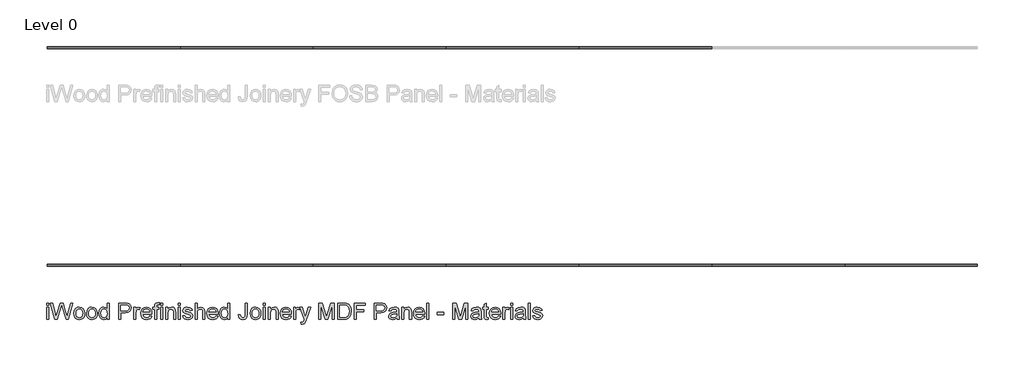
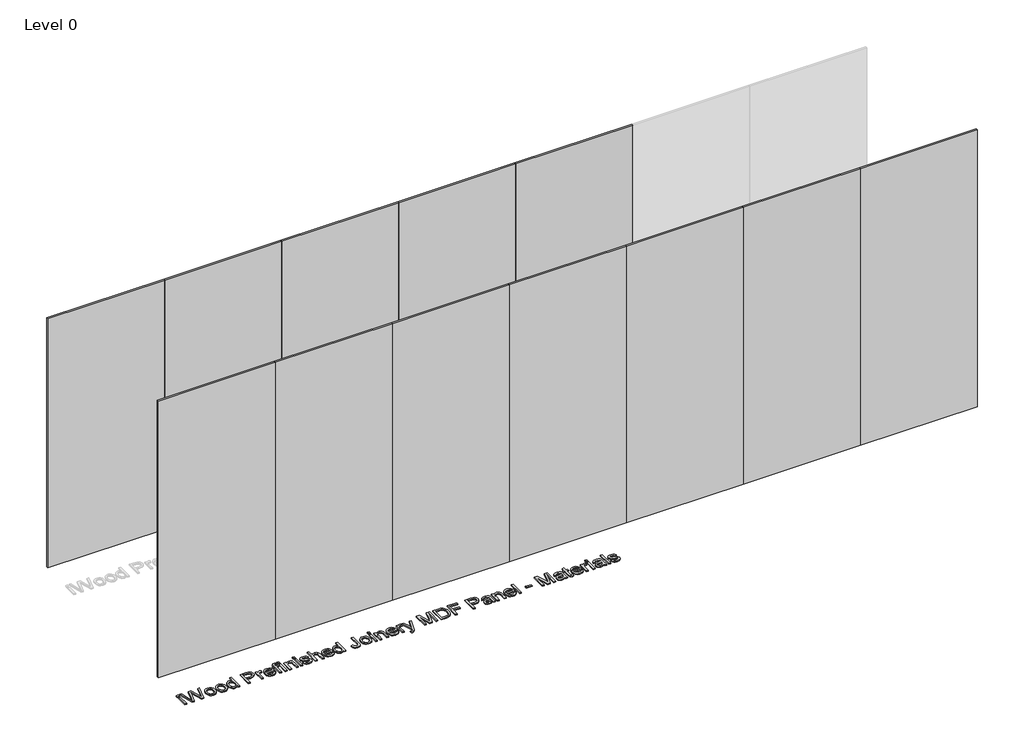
# One storey, part 1 of 2: 13 proxies.
"""IFC4 building model written with IfcOpenShell, lengths in millimetres."""

from ifc_helpers import new_model, si_unit, origin, origin_with_axes, place, context, project, spatial, polyline, outline, extrude, transform, mapped, element, save
from components import generic_models_e840f3b6, generic_models_9aff09e2

model = new_model("IFC4")

# Units and contexts
model_context = context("Model", 3, world=origin())
ifc_project = project(units=[si_unit("LENGTHUNIT", "METRE", prefix="MILLI")], contexts=[model_context])

# Site, building, storey
site = spatial("IfcSite", under=ifc_project)
building = spatial("IfcBuilding", under=site)
storey = spatial("IfcBuildingStorey", under=building, Name="Level 0", Elevation=0.0)

# Proxies
placement = place(None, origin())
generic_models_shape = generic_models_e840f3b6(model_context)
element("IfcBuildingElementProxy", 1, Name="Cladding Board_iWood_FOSB Panel_American Walnut : Cladding Board_iWood_FOSB Panel_American Walnut", ObjectType="Cladding Board_iWood_FOSB Panel_American Walnut : Cladding Board_iWood_FOSB Panel_American Walnut", at=placement, inside=storey, context=model_context, shape_type="MappedRepresentation", body=[
    mapped(generic_models_shape, transform((-5737.9498425, 1494.2915428, 0.0), x_axis=(1.0, 0.0, 0.0), y_axis=(0.0, 1.0, 0.0), z_axis=(0.0, 0.0, 1.0))),
])
generic_models_2_shape = generic_models_9aff09e2(model_context)
element("IfcBuildingElementProxy", 2, Name="Cladding Board_iWood_MDF Panel_American Walnut : Cladding Board_iWood_MDF Panel_American Walnut", ObjectType="Cladding Board_iWood_MDF Panel_American Walnut : Cladding Board_iWood_MDF Panel_American Walnut", at=placement, inside=storey, context=model_context, shape_type="MappedRepresentation", body=[
    mapped(generic_models_2_shape, transform((-5737.9498425, -505.7084572, 0.0), x_axis=(1.0, 0.0, 0.0), y_axis=(0.0, 1.0, 0.0), z_axis=(0.0, 0.0, 1.0))),
])
element("IfcBuildingElementProxy", 3, Name="Cladding Board_iWood_FOSB Panel_American White Oak (Dark) : Cladding Board_iWood_FOSB Panel_American White Oak (Dark)", ObjectType="Cladding Board_iWood_FOSB Panel_American White Oak (Dark) : Cladding Board_iWood_FOSB Panel_American White Oak (Dark)", at=placement, inside=storey, context=model_context, shape_type="MappedRepresentation", body=[
    mapped(generic_models_shape, transform((-4517.9498425, 1494.2915428, 0.0), x_axis=(1.0, 0.0, 0.0), y_axis=(0.0, 1.0, 0.0), z_axis=(0.0, 0.0, 1.0))),
])
element("IfcBuildingElementProxy", 4, Name="Cladding Board_iWood_MDF Panel_American White Oak (Dark) : Cladding Board_iWood_MDF Panel_American White Oak (Dark)", ObjectType="Cladding Board_iWood_MDF Panel_American White Oak (Dark) : Cladding Board_iWood_MDF Panel_American White Oak (Dark)", at=placement, inside=storey, context=model_context, shape_type="MappedRepresentation", body=[
    mapped(generic_models_2_shape, transform((-4517.9498425, -505.7084572, 0.0), x_axis=(1.0, 0.0, 0.0), y_axis=(0.0, 1.0, 0.0), z_axis=(0.0, 0.0, 1.0))),
])
element("IfcBuildingElementProxy", 5, Name="Cladding Board_iWood_FOSB Panel_American White Oak (Natural) : Cladding Board_iWood_FOSB Panel_American White Oak (Natural)", ObjectType="Cladding Board_iWood_FOSB Panel_American White Oak (Natural) : Cladding Board_iWood_FOSB Panel_American White Oak (Natural)", at=placement, inside=storey, context=model_context, shape_type="MappedRepresentation", body=[
    mapped(generic_models_shape, transform((-3297.9498425, 1494.2915428, 0.0), x_axis=(1.0, 0.0, 0.0), y_axis=(0.0, 1.0, 0.0), z_axis=(0.0, 0.0, 1.0))),
])
element("IfcBuildingElementProxy", 6, Name="Cladding Board_iWood_MDF Panel_American White Oak (Natural) : Cladding Board_iWood_MDF Panel_American White Oak (Natural)", ObjectType="Cladding Board_iWood_MDF Panel_American White Oak (Natural) : Cladding Board_iWood_MDF Panel_American White Oak (Natural)", at=placement, inside=storey, context=model_context, shape_type="MappedRepresentation", body=[
    mapped(generic_models_2_shape, transform((-3297.9498425, -505.7084572, 0.0), x_axis=(1.0, 0.0, 0.0), y_axis=(0.0, 1.0, 0.0), z_axis=(0.0, 0.0, 1.0))),
])
element("IfcBuildingElementProxy", 7, Name="Cladding Board_iWood_FOSB Panel_Blackbutt : Cladding Board_iWood_FOSB Panel_Blackbutt", ObjectType="Cladding Board_iWood_FOSB Panel_Blackbutt : Cladding Board_iWood_FOSB Panel_Blackbutt", at=placement, inside=storey, context=model_context, shape_type="MappedRepresentation", body=[
    mapped(generic_models_shape, transform((-2077.9498425, 1494.2915428, 0.0), x_axis=(1.0, 0.0, 0.0), y_axis=(0.0, 1.0, 0.0), z_axis=(0.0, 0.0, 1.0))),
])
element("IfcBuildingElementProxy", 8, Name="Cladding Board_iWood_MDF Panel_Blackbutt : Cladding Board_iWood_MDF Panel_Blackbutt", ObjectType="Cladding Board_iWood_MDF Panel_Blackbutt : Cladding Board_iWood_MDF Panel_Blackbutt", at=placement, inside=storey, context=model_context, shape_type="MappedRepresentation", body=[
    mapped(generic_models_2_shape, transform((-2077.9498425, -505.7084572, 0.0), x_axis=(1.0, 0.0, 0.0), y_axis=(0.0, 1.0, 0.0), z_axis=(0.0, 0.0, 1.0))),
])
element("IfcBuildingElementProxy", 9, Name="Cladding Board_iWood_FOSB Panel_Blackwood : Cladding Board_iWood_FOSB Panel_Blackwood", ObjectType="Cladding Board_iWood_FOSB Panel_Blackwood : Cladding Board_iWood_FOSB Panel_Blackwood", at=placement, inside=storey, context=model_context, shape_type="MappedRepresentation", body=[
    mapped(generic_models_shape, transform((-857.9498425, 1494.2915428, 0.0), x_axis=(1.0, 0.0, 0.0), y_axis=(0.0, 1.0, 0.0), z_axis=(0.0, 0.0, 1.0))),
])
element("IfcBuildingElementProxy", 10, Name="Cladding Board_iWood_MDF Panel_Blackwood : Cladding Board_iWood_MDF Panel_Blackwood", ObjectType="Cladding Board_iWood_MDF Panel_Blackwood : Cladding Board_iWood_MDF Panel_Blackwood", at=placement, inside=storey, context=model_context, shape_type="MappedRepresentation", body=[
    mapped(generic_models_2_shape, transform((-857.9498425, -505.7084572, 0.0), x_axis=(1.0, 0.0, 0.0), y_axis=(0.0, 1.0, 0.0), z_axis=(0.0, 0.0, 1.0))),
])
element("IfcBuildingElementProxy", 11, Name="Cladding Board_iWood_MDF Panel_Spotted Gum : Cladding Board_iWood_MDF Panel_Spotted Gum", ObjectType="Cladding Board_iWood_MDF Panel_Spotted Gum : Cladding Board_iWood_MDF Panel_Spotted Gum", at=placement, inside=storey, context=model_context, shape_type="MappedRepresentation", body=[
    mapped(generic_models_2_shape, transform((362.0501575, -505.7084572, 0.0), x_axis=(1.0, 0.0, 0.0), y_axis=(0.0, 1.0, 0.0), z_axis=(0.0, 0.0, 1.0))),
])
element("IfcBuildingElementProxy", 12, Name="Cladding Board_iWood_MDF Panel_Tasmanian Oak : Cladding Board_iWood_MDF Panel_Tasmanian Oak", ObjectType="Cladding Board_iWood_MDF Panel_Tasmanian Oak : Cladding Board_iWood_MDF Panel_Tasmanian Oak", at=placement, inside=storey, context=model_context, shape_type="MappedRepresentation", body=[
    mapped(generic_models_2_shape, transform((1582.0501575, -505.7084572, 0.0), x_axis=(1.0, 0.0, 0.0), y_axis=(0.0, 1.0, 0.0), z_axis=(0.0, 0.0, 1.0))),
])
element("IfcBuildingElementProxy", 13, Name="150mm Arial", ObjectType="150mm Arial", at=placement, inside=storey, context=model_context, shape_type="SweptSolid", body=[
    extrude(outline(polyline([(-5803.3402849, 1099.71536), (-5803.3402849, 1118.5509181), (-5784.5047267, 1118.5509181), (-5784.5047267, 1099.71536), (-5803.3402849, 1099.71536)])), origin_with_axes(), (0.0, 0.0, 1.0), 10.0),
    extrude(outline(polyline([(-5803.3402849, 967.8664529), (-5803.3402849, 1078.5253571), (-5784.5047267, 1078.5253571), (-5784.5047267, 967.8664529), (-5803.3402849, 967.8664529)])), origin_with_axes(), (0.0, 0.0, 1.0), 10.0),
    extrude(outline(polyline([(-5726.9311945, 967.8664529), (-5768.0236133, 1118.5509181), (-5748.599444, 1118.5509181), (-5724.7606907, 1019.517085), (-5717.4030508, 988.9460912), (-5709.5303761, 1015.9854179), (-5679.6583581, 1118.5509181), (-5651.6625383, 1118.5509181), (-5629.9575005, 1044.2019669), (-5613.8074809, 988.9460912), (-5606.6705702, 1018.6341683), (-5582.6110878, 1118.5509181), (-5563.1869184, 1118.5509181), (-5604.3161255, 967.8664529), (-5624.4392706, 967.8664529), (-5660.5652825, 1084.1171634), (-5665.6052659, 1100.3407594), (-5671.2706486, 1080.8062254), (-5704.1960872, 967.8664529), (-5726.9311945, 967.8664529)])), origin_with_axes(), (0.0, 0.0, 1.0), 10.0),
    extrude(outline(polyline([(-5551.4146946, 1023.195905), (-5547.3404015, 1049.8765467), (-5535.1175222, 1068.6293314), (-5520.0159663, 1077.8171842), (-5501.9345662, 1080.8798018), (-5482.1471134, 1077.1503981), (-5466.3419832, 1065.9621869), (-5455.9815065, 1048.1980851), (-5452.5280143, 1024.7410094), (-5454.0547245, 1005.7123132), (-5458.6348554, 991.2269596), (-5466.1350496, 980.3790393), (-5476.4219498, 972.2626428), (-5488.6402306, 967.1996668), (-5501.9345662, 965.5120082), (-5521.9611423, 969.2276163), (-5537.7478784, 980.3744408), (-5547.9979905, 998.5110231), (-5551.4146946, 1023.195905)]), holes=[polyline([(-5532.5791364, 1023.2326932), (-5530.3994356, 1006.1859612), (-5523.8603331, 994.0412569), (-5514.0194898, 986.7709889), (-5501.9345662, 984.3475663), (-5489.904825, 986.7847845), (-5480.0823757, 994.0964392), (-5473.5432732, 1006.4020919), (-5471.3635724, 1023.8213044), (-5473.5570688, 1040.3713956), (-5480.137558, 1052.3505531), (-5489.9738028, 1059.620821), (-5501.9345662, 1062.0442437), (-5514.0194898, 1059.6300181), (-5523.8603331, 1052.3873413), (-5530.3994356, 1040.2702281), (-5532.5791364, 1023.2326932)])]), origin_with_axes(), (0.0, 0.0, 1.0), 10.0),
    extrude(outline(polyline([(-5436.0469009, 1023.195905), (-5431.9726078, 1049.8765467), (-5419.7497285, 1068.6293314), (-5404.6481726, 1077.8171842), (-5386.5667725, 1080.8798018), (-5366.7793197, 1077.1503981), (-5350.9741895, 1065.9621869), (-5340.6137128, 1048.1980851), (-5337.1602206, 1024.7410094), (-5338.6869309, 1005.7123132), (-5343.2670617, 991.2269596), (-5350.7672559, 980.3790393), (-5361.0541562, 972.2626428), (-5373.2724369, 967.1996668), (-5386.5667725, 965.5120082), (-5406.5933486, 969.2276163), (-5422.3800848, 980.3744408), (-5432.6301968, 998.5110231), (-5436.0469009, 1023.195905)]), holes=[polyline([(-5417.2113427, 1023.2326932), (-5415.0316419, 1006.1859612), (-5408.4925394, 994.0412569), (-5398.6516961, 986.7709889), (-5386.5667725, 984.3475663), (-5374.5370313, 986.7847845), (-5364.714582, 994.0964392), (-5358.1754796, 1006.4020919), (-5355.9957787, 1023.8213044), (-5358.1892751, 1040.3713956), (-5364.7697643, 1052.3505531), (-5374.6060092, 1059.620821), (-5386.5667725, 1062.0442437), (-5398.6516961, 1059.6300181), (-5408.4925394, 1052.3873413), (-5415.0316419, 1040.2702281), (-5417.2113427, 1023.2326932)])]), origin_with_axes(), (0.0, 0.0, 1.0), 10.0),
    extrude(outline(polyline([(-5247.6913193, 967.8664529), (-5247.6913193, 985.6351533), (-5260.1533219, 970.5427944), (-5277.3793964, 965.5120082), (-5289.5562904, 967.333024), (-5300.7031149, 972.7960717), (-5310.139288, 981.5194735), (-5317.1842282, 993.1215519), (-5321.571221, 1007.1332574), (-5323.033552, 1023.0855404), (-5317.6440807, 1053.067923), (-5310.9118402, 1064.9597085), (-5301.4940611, 1073.7061029), (-5290.1035149, 1079.0863771), (-5277.4529728, 1080.8798018), (-5260.0889426, 1075.747848), (-5247.6913193, 1062.4121257), (-5247.6913193, 1118.5509181), (-5228.8557612, 1118.5509181), (-5228.8557612, 967.8664529), (-5247.6913193, 967.8664529)]), holes=[polyline([(-5304.1979938, 1023.1591168), (-5302.0734753, 1006.1215819), (-5295.6999197, 994.0044687), (-5286.4384905, 986.7617919), (-5275.650351, 984.3475663), (-5264.86681, 986.6514273), (-5255.8399055, 993.5630103), (-5249.7284659, 1005.211074), (-5247.6913193, 1021.724377), (-5249.7652541, 1039.7781859), (-5255.9870583, 1052.2953708), (-5265.243889, 1059.6070255), (-5276.4229032, 1062.0442437), (-5287.3214073, 1059.7035945), (-5296.2517427, 1052.6816469), (-5302.211431, 1040.619716), (-5304.1979938, 1023.1591168)])]), origin_with_axes(), (0.0, 0.0, 1.0), 10.0),
    extrude(outline(polyline([(-5139.38686, 967.8664529), (-5139.38686, 1118.5509181), (-5083.5423731, 1118.5509181), (-5061.027995, 1117.1161784), (-5042.7258657, 1110.0712382), (-5030.8616714, 1095.5031111), (-5026.3735111, 1074.9569017), (-5029.403939, 1057.1973984), (-5038.4952228, 1042.3993451), (-5055.4959695, 1032.411349), (-5082.2547861, 1029.0820169), (-5120.5513018, 1029.0820169), (-5120.5513018, 967.8664529), (-5139.38686, 967.8664529)]), holes=[polyline([(-5120.5513018, 1047.9175751), (-5081.1511401, 1047.9175751), (-5064.4492976, 1049.6466204), (-5053.4128377, 1054.8337566), (-5047.2600113, 1063.1570867), (-5045.2090692, 1074.2947141), (-5050.0467174, 1089.8929107), (-5062.7570404, 1098.427773), (-5081.5925985, 1099.71536), (-5120.5513018, 1099.71536), (-5120.5513018, 1047.9175751)])]), origin_with_axes(), (0.0, 0.0, 1.0), 10.0),
    extrude(outline(polyline([(-5002.8290634, 967.8664529), (-5002.8290634, 1078.5253571), (-4986.34795, 1078.5253571), (-4986.34795, 1062.1546083), (-4974.6493025, 1077.2377701), (-4962.8770787, 1080.8798018), (-4943.9679441, 1075.0672663), (-4950.2587262, 1058.1814827), (-4963.5024781, 1062.0442437), (-4974.1526618, 1058.3286355), (-4980.9400846, 1048.0279397), (-4983.9935052, 1026.0285964), (-4983.9935052, 967.8664529), (-5002.8290634, 967.8664529)])), origin_with_axes(), (0.0, 0.0, 1.0), 10.0),
    extrude(outline(polyline([(-4854.7197721, 1000.8286797), (-4836.2520959, 998.4742349), (-4842.9061615, 984.5590985), (-4853.5241556, 974.157235), (-4867.8669549, 967.6733149), (-4885.6954361, 965.5120082), (-4907.795947, 969.2414119), (-4924.8012922, 980.4296231), (-4935.644614, 998.3500747), (-4939.2590546, 1022.2762), (-4935.6078258, 1047.0070671), (-4924.6541394, 1065.5023344), (-4907.8787204, 1077.035435), (-4886.7622939, 1080.8798018), (-4866.3034564, 1077.044632), (-4849.9557003, 1065.5391226), (-4839.2365386, 1047.0806435), (-4835.6634848, 1022.3865646), (-4835.7738493, 1017.3097931), (-4920.4234964, 1017.3097931), (-4917.1631423, 1003.2107156), (-4909.5893717, 992.8456404), (-4898.6586779, 986.4720848), (-4885.3275541, 984.3475663), (-4866.8598779, 988.2839037), (-4854.7197721, 1000.8286797)]), holes=[polyline([(-4920.4234964, 1036.1453512), (-4854.4990429, 1036.1453512), (-4857.0466257, 1046.0965592), (-4862.0406238, 1053.2150758), (-4873.0219014, 1059.8369517), (-4886.8358703, 1062.0442437), (-4899.5323976, 1060.2830086), (-4910.0308301, 1054.9993035), (-4917.3286892, 1046.7633453), (-4920.4234964, 1036.1453512)])]), origin_with_axes(), (0.0, 0.0, 1.0), 10.0),
    extrude(outline(polyline([(-4812.1190371, 967.8664529), (-4812.1190371, 1059.6897989), (-4828.6001504, 1059.6897989), (-4828.6001504, 1078.5253571), (-4812.1190371, 1078.5253571), (-4812.1190371, 1089.6721815), (-4810.1324743, 1105.3807427), (-4800.493966, 1116.6011436), (-4781.5112551, 1120.9053629), (-4764.3311659, 1118.8452237), (-4767.0902808, 1101.186888), (-4777.9427997, 1102.0698048), (-4789.8069941, 1098.9428078), (-4793.2834789, 1087.2809486), (-4793.2834789, 1078.5253571), (-4772.093476, 1078.5253571), (-4772.093476, 1059.6897989), (-4793.2834789, 1059.6897989), (-4793.2834789, 967.8664529), (-4812.1190371, 967.8664529)])), origin_with_axes(), (0.0, 0.0, 1.0), 10.0),
    extrude(outline(polyline([(-4755.6123626, 1099.71536), (-4755.6123626, 1118.5509181), (-4736.7768044, 1118.5509181), (-4736.7768044, 1099.71536), (-4755.6123626, 1099.71536)])), origin_with_axes(), (0.0, 0.0, 1.0), 10.0),
    extrude(outline(polyline([(-4755.6123626, 967.8664529), (-4755.6123626, 1078.5253571), (-4736.7768044, 1078.5253571), (-4736.7768044, 967.8664529), (-4755.6123626, 967.8664529)])), origin_with_axes(), (0.0, 0.0, 1.0), 10.0),
    extrude(outline(polyline([(-4708.5234672, 967.8664529), (-4708.5234672, 1078.5253571), (-4689.6879091, 1078.5253571), (-4689.6879091, 1063.0743133), (-4675.285329, 1076.4284297), (-4655.6220363, 1080.8798018), (-4637.8349418, 1077.2929524), (-4625.694836, 1067.8751733), (-4620.0478474, 1054.0244162), (-4619.054566, 1035.8142574), (-4619.054566, 967.8664529), (-4637.8901241, 967.8664529), (-4637.8901241, 1033.2758717), (-4640.0606279, 1049.940926), (-4647.7309675, 1058.7516998), (-4660.6620196, 1062.0442437), (-4671.693881, 1060.1956367), (-4681.0978645, 1054.6498156), (-4687.5403979, 1043.9352525), (-4689.6879091, 1026.5804194), (-4689.6879091, 967.8664529), (-4708.5234672, 967.8664529)])), origin_with_axes(), (0.0, 0.0, 1.0), 10.0),
    extrude(outline(polyline([(-4593.1556735, 1099.71536), (-4593.1556735, 1118.5509181), (-4574.3201154, 1118.5509181), (-4574.3201154, 1099.71536), (-4593.1556735, 1099.71536)])), origin_with_axes(), (0.0, 0.0, 1.0), 10.0),
    extrude(outline(polyline([(-4593.1556735, 967.8664529), (-4593.1556735, 1078.5253571), (-4574.3201154, 1078.5253571), (-4574.3201154, 967.8664529), (-4593.1556735, 967.8664529)])), origin_with_axes(), (0.0, 0.0, 1.0), 10.0),
    extrude(outline(polyline([(-4553.1301125, 1000.8286797), (-4534.2945543, 1003.1831245), (-4531.3239072, 995.1265088), (-4525.575751, 989.2036086), (-4505.5997587, 984.3475663), (-4486.3963185, 988.7989384), (-4480.1423246, 999.2467871), (-4481.7150201, 1004.0476471), (-4486.4331067, 1007.708073), (-4505.8204879, 1013.0791501), (-4534.1841897, 1022.2945941), (-4546.5634188, 1033.0551425), (-4550.7756677, 1048.2486689), (-4547.3911533, 1062.283367), (-4538.1573153, 1073.0071271), (-4526.1827563, 1078.5805394), (-4509.9775544, 1080.8798018), (-4487.0585061, 1077.1825878), (-4472.4903791, 1067.1761975), (-4466.015656, 1050.2720198), (-4484.8512142, 1047.9175751), (-4491.9329426, 1058.3102414), (-4508.5060264, 1062.0442437), (-4526.5322442, 1058.4757883), (-4531.9401095, 1050.1616552), (-4529.6960294, 1044.6802135), (-4522.6694833, 1040.523147), (-4506.4458873, 1036.5132332), (-4478.7995553, 1027.6472771), (-4465.9604737, 1017.6040987), (-4461.3067665, 1001.2333499), (-4466.7698141, 983.2071321), (-4482.5335576, 970.1289272), (-4505.8572761, 965.5120082), (-4524.8491841, 967.7376942), (-4538.7091382, 974.4147524), (-4547.9613704, 985.4696064), (-4553.1301125, 1000.8286797)])), origin_with_axes(), (0.0, 0.0, 1.0), 10.0),
    extrude(outline(polyline([(-4440.1167635, 967.8664529), (-4440.1167635, 1118.5509181), (-4421.2812054, 1118.5509181), (-4421.2812054, 1063.1478897), (-4406.5935167, 1076.4468238), (-4388.5029196, 1080.8798018), (-4367.3497049, 1076.0421536), (-4354.5106233, 1062.6696431), (-4350.6478623, 1037.9111848), (-4350.6478623, 967.8664529), (-4369.4834205, 967.8664529), (-4369.4834205, 1035.9614102), (-4370.9825396, 1047.7520282), (-4375.479897, 1055.827038), (-4382.7271723, 1060.4899423), (-4392.4760452, 1062.0442437), (-4407.9086949, 1057.8503889), (-4418.2093907, 1046.4828353), (-4421.2812054, 1026.6539958), (-4421.2812054, 967.8664529), (-4440.1167635, 967.8664529)])), origin_with_axes(), (0.0, 0.0, 1.0), 10.0),
    extrude(outline(polyline([(-4247.2730217, 1000.8286797), (-4228.8053455, 998.4742349), (-4235.4594111, 984.5590985), (-4246.0774052, 974.157235), (-4260.4202045, 967.6733149), (-4278.2486857, 965.5120082), (-4300.3491965, 969.2414119), (-4317.3545417, 980.4296231), (-4328.1978636, 998.3500747), (-4331.8123042, 1022.2762), (-4328.1610754, 1047.0070671), (-4317.2073889, 1065.5023344), (-4300.43197, 1077.035435), (-4279.3155434, 1080.8798018), (-4258.856706, 1077.044632), (-4242.5089498, 1065.5391226), (-4231.7897882, 1047.0806435), (-4228.2167343, 1022.3865646), (-4228.3270989, 1017.3097931), (-4312.976746, 1017.3097931), (-4309.7163918, 1003.2107156), (-4302.1426212, 992.8456404), (-4291.2119275, 986.4720848), (-4277.8808037, 984.3475663), (-4259.4131275, 988.2839037), (-4247.2730217, 1000.8286797)]), holes=[polyline([(-4312.976746, 1036.1453512), (-4247.0522925, 1036.1453512), (-4249.5998753, 1046.0965592), (-4254.5938734, 1053.2150758), (-4265.5751509, 1059.8369517), (-4279.3891198, 1062.0442437), (-4292.0856472, 1060.2830086), (-4302.5840796, 1054.9993035), (-4309.8819387, 1046.7633453), (-4312.976746, 1036.1453512)])]), origin_with_axes(), (0.0, 0.0, 1.0), 10.0),
    extrude(outline(polyline([(-4141.1022779, 967.8664529), (-4141.1022779, 985.6351533), (-4153.5642804, 970.5427944), (-4170.7903549, 965.5120082), (-4182.9672489, 967.333024), (-4194.1140734, 972.7960717), (-4203.5502465, 981.5194735), (-4210.5951867, 993.1215519), (-4214.9821795, 1007.1332574), (-4216.4445105, 1023.0855404), (-4211.0550392, 1053.067923), (-4204.3227987, 1064.9597085), (-4194.9050197, 1073.7061029), (-4183.5144734, 1079.0863771), (-4170.8639313, 1080.8798018), (-4153.4999011, 1075.747848), (-4141.1022779, 1062.4121257), (-4141.1022779, 1118.5509181), (-4122.2667197, 1118.5509181), (-4122.2667197, 967.8664529), (-4141.1022779, 967.8664529)]), holes=[polyline([(-4197.6089523, 1023.1591168), (-4195.4844338, 1006.1215819), (-4189.1108782, 994.0044687), (-4179.849449, 986.7617919), (-4169.0613095, 984.3475663), (-4158.2777685, 986.6514273), (-4149.2508641, 993.5630103), (-4143.1394244, 1005.211074), (-4141.1022779, 1021.724377), (-4143.1762126, 1039.7781859), (-4149.3980168, 1052.2953708), (-4158.6548476, 1059.6070255), (-4169.8338617, 1062.0442437), (-4180.7323658, 1059.7035945), (-4189.6627012, 1052.6816469), (-4195.6223895, 1040.619716), (-4197.6089523, 1023.1591168)])]), origin_with_axes(), (0.0, 0.0, 1.0), 10.0),
    extrude(outline(polyline([(-4042.2155976, 1010.1728824), (-4023.3800394, 1012.6009035), (-4021.4210678, 998.9064963), (-4016.9421045, 990.3440428), (-4010.0994994, 985.8466854), (-4001.0496023, 984.3475663), (-3988.1553384, 987.7504748), (-3980.6873339, 997.021101), (-3978.6455888, 1015.6911123), (-3978.6455888, 1118.5509181), (-3959.8100306, 1118.5509181), (-3959.8100306, 1016.0222061), (-3964.3533733, 986.7571934), (-3970.2302881, 977.6291214), (-3978.7743475, 970.9566617), (-4001.9325191, 965.5120082), (-4019.3425345, 968.3217069), (-4032.1356309, 976.7508031), (-4039.897941, 990.7257204), (-4042.2155976, 1010.1728824)])), origin_with_axes(), (0.0, 0.0, 1.0), 10.0),
    extrude(outline(polyline([(-3933.9111382, 1023.195905), (-3929.8368451, 1049.8765467), (-3917.6139658, 1068.6293314), (-3902.5124099, 1077.8171842), (-3884.4310098, 1080.8798018), (-3864.643557, 1077.1503981), (-3848.8384268, 1065.9621869), (-3838.4779501, 1048.1980851), (-3835.0244579, 1024.7410094), (-3836.5511681, 1005.7123132), (-3841.131299, 991.2269596), (-3848.6314932, 980.3790393), (-3858.9183935, 972.2626428), (-3871.1366742, 967.1996668), (-3884.4310098, 965.5120082), (-3904.4575859, 969.2276163), (-3920.2443221, 980.3744408), (-3930.4944341, 998.5110231), (-3933.9111382, 1023.195905)]), holes=[polyline([(-3915.07558, 1023.2326932), (-3912.8958792, 1006.1859612), (-3906.3567767, 994.0412569), (-3896.5159334, 986.7709889), (-3884.4310098, 984.3475663), (-3872.4012686, 986.7847845), (-3862.5788193, 994.0964392), (-3856.0397168, 1006.4020919), (-3853.860016, 1023.8213044), (-3856.0535124, 1040.3713956), (-3862.6340016, 1052.3505531), (-3872.4702465, 1059.620821), (-3884.4310098, 1062.0442437), (-3896.5159334, 1059.6300181), (-3906.3567767, 1052.3873413), (-3912.8958792, 1040.2702281), (-3915.07558, 1023.2326932)])]), origin_with_axes(), (0.0, 0.0, 1.0), 10.0),
    extrude(outline(polyline([(-3813.8344549, 1099.71536), (-3813.8344549, 1118.5509181), (-3794.9988968, 1118.5509181), (-3794.9988968, 1099.71536), (-3813.8344549, 1099.71536)])), origin_with_axes(), (0.0, 0.0, 1.0), 10.0),
    extrude(outline(polyline([(-3813.8344549, 967.8664529), (-3813.8344549, 1078.5253571), (-3794.9988968, 1078.5253571), (-3794.9988968, 967.8664529), (-3813.8344549, 967.8664529)])), origin_with_axes(), (0.0, 0.0, 1.0), 10.0),
    extrude(outline(polyline([(-3766.7455596, 967.8664529), (-3766.7455596, 1078.5253571), (-3747.9100014, 1078.5253571), (-3747.9100014, 1063.0743133), (-3733.5074213, 1076.4284297), (-3713.8441287, 1080.8798018), (-3696.0570342, 1077.2929524), (-3683.9169284, 1067.8751733), (-3678.2699397, 1054.0244162), (-3677.2766583, 1035.8142574), (-3677.2766583, 967.8664529), (-3696.1122165, 967.8664529), (-3696.1122165, 1033.2758717), (-3698.2827203, 1049.940926), (-3705.9530599, 1058.7516998), (-3718.884112, 1062.0442437), (-3729.9159733, 1060.1956367), (-3739.3199568, 1054.6498156), (-3745.7624903, 1043.9352525), (-3747.9100014, 1026.5804194), (-3747.9100014, 967.8664529), (-3766.7455596, 967.8664529)])), origin_with_axes(), (0.0, 0.0, 1.0), 10.0),
    extrude(outline(polyline([(-3573.9018177, 1000.8286797), (-3555.4341415, 998.4742349), (-3562.0882071, 984.5590985), (-3572.7062012, 974.157235), (-3587.0490005, 967.6733149), (-3604.8774817, 965.5120082), (-3626.9779925, 969.2414119), (-3643.9833378, 980.4296231), (-3654.8266596, 998.3500747), (-3658.4411002, 1022.2762), (-3654.7898714, 1047.0070671), (-3643.836185, 1065.5023344), (-3627.060766, 1077.035435), (-3605.9443395, 1080.8798018), (-3585.485502, 1077.044632), (-3569.1377459, 1065.5391226), (-3558.4185842, 1047.0806435), (-3554.8455303, 1022.3865646), (-3554.9558949, 1017.3097931), (-3639.605542, 1017.3097931), (-3636.3451878, 1003.2107156), (-3628.7714173, 992.8456404), (-3617.8407235, 986.4720848), (-3604.5095997, 984.3475663), (-3586.0419235, 988.2839037), (-3573.9018177, 1000.8286797)]), holes=[polyline([(-3639.605542, 1036.1453512), (-3573.6810885, 1036.1453512), (-3576.2286713, 1046.0965592), (-3581.2226694, 1053.2150758), (-3592.203947, 1059.8369517), (-3606.0179159, 1062.0442437), (-3618.7144432, 1060.2830086), (-3629.2128757, 1054.9993035), (-3636.5107347, 1046.7633453), (-3639.605542, 1036.1453512)])]), origin_with_axes(), (0.0, 0.0, 1.0), 10.0),
    extrude(outline(polyline([(-3465.3766291, 925.4864471), (-3467.7310739, 943.6230294), (-3458.166142, 941.9675605), (-3449.2266095, 944.0460937), (-3443.7451678, 949.8402352), (-3438.5948199, 963.7093864), (-3437.1232919, 968.2711231), (-3477.148853, 1078.5253571), (-3457.2832252, 1078.5253571), (-3436.0564341, 1017.0890639), (-3428.662006, 992.5145466), (-3421.2675779, 1014.2195843), (-3399.4521756, 1078.5253571), (-3379.7337006, 1078.5253571), (-3418.2509455, 965.2177026), (-3428.2573358, 940.6431853), (-3439.1834311, 927.3626453), (-3453.8619227, 923.1320023), (-3465.3766291, 925.4864471)])), origin_with_axes(), (0.0, 0.0, 1.0), 10.0),
    extrude(outline(polyline([(-3536.0099722, 967.8664529), (-3536.0099722, 1078.5253571), (-3519.5288588, 1078.5253571), (-3519.5288588, 1062.1546083), (-3507.8302114, 1077.2377701), (-3496.0579875, 1080.8798018), (-3477.148853, 1075.0672663), (-3483.4396351, 1058.1814827), (-3496.6833869, 1062.0442437), (-3507.3335707, 1058.3286355), (-3514.1209935, 1048.0279397), (-3517.174414, 1026.0285964), (-3517.174414, 967.8664529), (-3536.0099722, 967.8664529)])), origin_with_axes(), (0.0, 0.0, 1.0), 10.0),
    extrude(outline(polyline([(-3302.91994, 967.8664529), (-3302.91994, 1118.5509181), (-3270.5095363, 1118.5509181), (-3239.6810251, 1012.3433861), (-3233.4638194, 990.1601018), (-3226.7315788, 1014.1827961), (-3196.4181024, 1118.5509181), (-3164.0076987, 1118.5509181), (-3164.0076987, 967.8664529), (-3182.8432568, 967.8664529), (-3182.8432568, 1099.71536), (-3220.6983141, 967.8664529), (-3246.2293246, 967.8664529), (-3284.0843819, 1099.71536), (-3284.0843819, 967.8664529), (-3302.91994, 967.8664529)])), origin_with_axes(), (0.0, 0.0, 1.0), 10.0),
    extrude(outline(polyline([(-3131.0454719, 967.8664529), (-3131.0454719, 1118.5509181), (-3079.063746, 1118.5509181), (-3052.1715721, 1116.3804144), (-3030.025076, 1105.6014719), (-3019.6048185, 1094.1235537), (-3012.1827993, 1079.8497323), (-3007.7406242, 1063.0559192), (-3006.2598991, 1044.0180259), (-3010.2698129, 1013.612579), (-3020.5705087, 991.668418), (-3034.3292954, 978.0016019), (-3052.337119, 970.4416269), (-3076.5621484, 967.8664529), (-3131.0454719, 967.8664529)]), holes=[polyline([(-3112.2099137, 986.7020111), (-3078.879805, 986.7020111), (-3054.6363815, 989.4243378), (-3040.6568657, 997.1130715), (-3029.1973415, 1015.819871), (-3025.0954573, 1044.3123315), (-3027.1050127, 1064.8401468), (-3033.1336789, 1079.9968851), (-3042.0410217, 1090.4079455), (-3052.6866069, 1096.6987276), (-3079.3948398, 1099.71536), (-3112.2099137, 1099.71536), (-3112.2099137, 986.7020111)])]), origin_with_axes(), (0.0, 0.0, 1.0), 10.0),
    extrude(outline(polyline([(-2980.3610067, 967.8664529), (-2980.3610067, 1118.5509181), (-2879.1198816, 1118.5509181), (-2879.1198816, 1099.71536), (-2961.5254485, 1099.71536), (-2961.5254485, 1054.9809094), (-2890.8921054, 1054.9809094), (-2890.8921054, 1036.1453512), (-2961.5254485, 1036.1453512), (-2961.5254485, 967.8664529), (-2980.3610067, 967.8664529)])), origin_with_axes(), (0.0, 0.0, 1.0), 10.0),
    extrude(outline(polyline([(-2794.3598699, 967.8664529), (-2794.3598699, 1118.5509181), (-2738.515383, 1118.5509181), (-2716.0010049, 1117.1161784), (-2697.6988757, 1110.0712382), (-2685.8346813, 1095.5031111), (-2681.346521, 1074.9569017), (-2684.3769489, 1057.1973984), (-2693.4682327, 1042.3993451), (-2710.4689794, 1032.411349), (-2737.2277961, 1029.0820169), (-2775.5243118, 1029.0820169), (-2775.5243118, 967.8664529), (-2794.3598699, 967.8664529)]), holes=[polyline([(-2775.5243118, 1047.9175751), (-2736.1241501, 1047.9175751), (-2719.4223075, 1049.6466204), (-2708.3858476, 1054.8337566), (-2702.2330213, 1063.1570867), (-2700.1820791, 1074.2947141), (-2705.0197274, 1089.8929107), (-2717.7300503, 1098.427773), (-2736.5656085, 1099.71536), (-2775.5243118, 1099.71536), (-2775.5243118, 1047.9175751)])]), origin_with_axes(), (0.0, 0.0, 1.0), 10.0),
    extrude(outline(polyline([(-2587.1687302, 981.9931215), (-2605.4340713, 969.2276163), (-2625.6123987, 965.5120082), (-2641.3531496, 967.7468913), (-2652.9644251, 974.4515406), (-2660.1243284, 984.6326749), (-2662.5109628, 997.2970125), (-2658.9057193, 1012.1962333), (-2649.4327579, 1023.011964), (-2636.2441884, 1029.1923815), (-2619.947016, 1032.0250729), (-2587.2790948, 1038.499796), (-2587.1687302, 1042.6936507), (-2588.4655143, 1051.0997543), (-2592.3558664, 1056.5995902), (-2601.0562755, 1060.6830803), (-2613.1779873, 1062.0442437), (-2632.2342746, 1058.420606), (-2641.3209599, 1045.5631303), (-2660.1565181, 1047.9175751), (-2652.0079319, 1066.3116748), (-2635.6003949, 1077.0906173), (-2610.7499661, 1080.8798018), (-2587.9228883, 1077.5320757), (-2575.0286244, 1069.1259721), (-2569.2528771, 1056.3420728), (-2568.3331721, 1039.8609594), (-2568.3331721, 1016.4268763), (-2567.3766789, 983.7037728), (-2563.6242825, 967.8664529), (-2582.4598407, 967.8664529), (-2587.1687302, 981.9931215)]), holes=[polyline([(-2587.1687302, 1019.6642378), (-2617.555783, 1013.8884905), (-2633.7609849, 1010.83507), (-2641.1002307, 1005.868663), (-2643.6754047, 998.6213877), (-2638.0652043, 988.4310565), (-2621.602485, 984.3475663), (-2602.5461976, 988.8541207), (-2590.258939, 999.7618219), (-2587.2790948, 1014.3299489), (-2587.1687302, 1019.6642378)])]), origin_with_axes(), (0.0, 0.0, 1.0), 10.0),
    extrude(outline(polyline([(-2542.4342796, 967.8664529), (-2542.4342796, 1078.5253571), (-2523.5987215, 1078.5253571), (-2523.5987215, 1063.0743133), (-2509.1961414, 1076.4284297), (-2489.5328487, 1080.8798018), (-2471.7457542, 1077.2929524), (-2459.6056484, 1067.8751733), (-2453.9586598, 1054.0244162), (-2452.9653784, 1035.8142574), (-2452.9653784, 967.8664529), (-2471.8009365, 967.8664529), (-2471.8009365, 1033.2758717), (-2473.9714403, 1049.940926), (-2481.6417799, 1058.7516998), (-2494.572832, 1062.0442437), (-2505.6046934, 1060.1956367), (-2515.0086769, 1054.6498156), (-2521.4512103, 1043.9352525), (-2523.5987215, 1026.5804194), (-2523.5987215, 967.8664529), (-2542.4342796, 967.8664529)])), origin_with_axes(), (0.0, 0.0, 1.0), 10.0),
    extrude(outline(polyline([(-2349.5905377, 1000.8286797), (-2331.1228616, 998.4742349), (-2337.7769272, 984.5590985), (-2348.3949213, 974.157235), (-2362.7377205, 967.6733149), (-2380.5662017, 965.5120082), (-2402.6667126, 969.2414119), (-2419.6720578, 980.4296231), (-2430.5153796, 998.3500747), (-2434.1298202, 1022.2762), (-2430.4785914, 1047.0070671), (-2419.524905, 1065.5023344), (-2402.749486, 1077.035435), (-2381.6330595, 1080.8798018), (-2361.1742221, 1077.044632), (-2344.8264659, 1065.5391226), (-2334.1073043, 1047.0806435), (-2330.5342504, 1022.3865646), (-2330.644615, 1017.3097931), (-2415.2942621, 1017.3097931), (-2412.0339079, 1003.2107156), (-2404.4601373, 992.8456404), (-2393.5294435, 986.4720848), (-2380.1983197, 984.3475663), (-2361.7306436, 988.2839037), (-2349.5905377, 1000.8286797)]), holes=[polyline([(-2415.2942621, 1036.1453512), (-2349.3698085, 1036.1453512), (-2351.9173914, 1046.0965592), (-2356.9113894, 1053.2150758), (-2367.892667, 1059.8369517), (-2381.7066359, 1062.0442437), (-2394.4031633, 1060.2830086), (-2404.9015957, 1054.9993035), (-2412.1994548, 1046.7633453), (-2415.2942621, 1036.1453512)])]), origin_with_axes(), (0.0, 0.0, 1.0), 10.0),
    extrude(outline(polyline([(-2311.6986922, 967.8664529), (-2311.6986922, 1118.5509181), (-2292.8631341, 1118.5509181), (-2292.8631341, 967.8664529), (-2311.6986922, 967.8664529)])), origin_with_axes(), (0.0, 0.0, 1.0), 10.0),
    extrude(outline(polyline([(-2215.1664567, 1012.6009035), (-2215.1664567, 1031.4364617), (-2156.3053375, 1031.4364617), (-2156.3053375, 1012.6009035), (-2215.1664567, 1012.6009035)])), origin_with_axes(), (0.0, 0.0, 1.0), 10.0),
    extrude(outline(polyline([(-2073.8997706, 967.8664529), (-2073.8997706, 1118.5509181), (-2041.4893668, 1118.5509181), (-2010.6608556, 1012.3433861), (-2004.4436499, 990.1601018), (-1997.7114094, 1014.1827961), (-1967.397933, 1118.5509181), (-1934.9875292, 1118.5509181), (-1934.9875292, 967.8664529), (-1953.8230873, 967.8664529), (-1953.8230873, 1099.71536), (-1991.6781446, 967.8664529), (-2017.2091551, 967.8664529), (-2055.0642124, 1099.71536), (-2055.0642124, 967.8664529), (-2073.8997706, 967.8664529)])), origin_with_axes(), (0.0, 0.0, 1.0), 10.0),
    extrude(outline(polyline([(-1833.7464041, 981.9931215), (-1852.0117452, 969.2276163), (-1872.1900726, 965.5120082), (-1887.9308235, 967.7468913), (-1899.5420989, 974.4515406), (-1906.7020023, 984.6326749), (-1909.0886367, 997.2970125), (-1905.4833932, 1012.1962333), (-1896.0104318, 1023.011964), (-1882.8218623, 1029.1923815), (-1866.5246899, 1032.0250729), (-1833.8567687, 1038.499796), (-1833.7464041, 1042.6936507), (-1835.0431881, 1051.0997543), (-1838.9335402, 1056.5995902), (-1847.6339494, 1060.6830803), (-1859.7556612, 1062.0442437), (-1878.8119485, 1058.420606), (-1887.8986338, 1045.5631303), (-1906.734192, 1047.9175751), (-1898.5856058, 1066.3116748), (-1882.1780688, 1077.0906173), (-1857.32764, 1080.8798018), (-1834.5005622, 1077.5320757), (-1821.6062983, 1069.1259721), (-1815.8305509, 1056.3420728), (-1814.910846, 1039.8609594), (-1814.910846, 1016.4268763), (-1813.9543528, 983.7037728), (-1810.2019564, 967.8664529), (-1829.0375146, 967.8664529), (-1833.7464041, 981.9931215)]), holes=[polyline([(-1833.7464041, 1019.6642378), (-1864.1334569, 1013.8884905), (-1880.3386588, 1010.83507), (-1887.6779046, 1005.868663), (-1890.2530786, 998.6213877), (-1884.6428781, 988.4310565), (-1868.1801589, 984.3475663), (-1849.1238715, 988.8541207), (-1836.8366129, 999.7618219), (-1833.8567687, 1014.3299489), (-1833.7464041, 1019.6642378)])]), origin_with_axes(), (0.0, 0.0, 1.0), 10.0),
    extrude(outline(polyline([(-1748.9863924, 983.5750141), (-1746.6319477, 967.3146299), (-1760.7218281, 965.5120082), (-1776.5039657, 968.6390051), (-1784.3766404, 976.8427736), (-1786.6575087, 998.2167175), (-1786.6575087, 1059.6897989), (-1800.7841773, 1059.6897989), (-1800.7841773, 1078.5253571), (-1786.6575087, 1078.5253571), (-1786.6575087, 1105.4175309), (-1767.8219506, 1116.490779), (-1767.8219506, 1078.5253571), (-1748.9863924, 1078.5253571), (-1748.9863924, 1059.6897989), (-1767.8219506, 1059.6897989), (-1767.8219506, 998.7685405), (-1766.8286692, 989.0564558), (-1763.6097017, 985.6167592), (-1757.1901609, 984.3475663), (-1748.9863924, 983.5750141)])), origin_with_axes(), (0.0, 0.0, 1.0), 10.0),
    extrude(outline(polyline([(-1652.6748861, 1000.8286797), (-1634.2072099, 998.4742349), (-1640.8612755, 984.5590985), (-1651.4792696, 974.157235), (-1665.8220689, 967.6733149), (-1683.6505501, 965.5120082), (-1705.7510609, 969.2414119), (-1722.7564062, 980.4296231), (-1733.599728, 998.3500747), (-1737.2141686, 1022.2762), (-1733.5629398, 1047.0070671), (-1722.6092534, 1065.5023344), (-1705.8338344, 1077.035435), (-1684.7174079, 1080.8798018), (-1664.2585704, 1077.044632), (-1647.9108142, 1065.5391226), (-1637.1916526, 1047.0806435), (-1633.6185987, 1022.3865646), (-1633.7289633, 1017.3097931), (-1718.3786104, 1017.3097931), (-1715.1182562, 1003.2107156), (-1707.5444857, 992.8456404), (-1696.6137919, 986.4720848), (-1683.2826681, 984.3475663), (-1664.8149919, 988.2839037), (-1652.6748861, 1000.8286797)]), holes=[polyline([(-1718.3786104, 1036.1453512), (-1652.4541569, 1036.1453512), (-1655.0017397, 1046.0965592), (-1659.9957378, 1053.2150758), (-1670.9770153, 1059.8369517), (-1684.7909843, 1062.0442437), (-1697.4875116, 1060.2830086), (-1707.9859441, 1054.9993035), (-1715.2838031, 1046.7633453), (-1718.3786104, 1036.1453512)])]), origin_with_axes(), (0.0, 0.0, 1.0), 10.0),
    extrude(outline(polyline([(-1614.7830406, 967.8664529), (-1614.7830406, 1078.5253571), (-1598.3019272, 1078.5253571), (-1598.3019272, 1062.1546083), (-1586.6032797, 1077.2377701), (-1574.8310559, 1080.8798018), (-1555.9219214, 1075.0672663), (-1562.2127035, 1058.1814827), (-1575.4564553, 1062.0442437), (-1586.1066391, 1058.3286355), (-1592.8940619, 1048.0279397), (-1595.9474824, 1026.0285964), (-1595.9474824, 967.8664529), (-1614.7830406, 967.8664529)])), origin_with_axes(), (0.0, 0.0, 1.0), 10.0),
    extrude(outline(polyline([(-1544.1496975, 1099.71536), (-1544.1496975, 1118.5509181), (-1525.3141394, 1118.5509181), (-1525.3141394, 1099.71536), (-1544.1496975, 1099.71536)])), origin_with_axes(), (0.0, 0.0, 1.0), 10.0),
    extrude(outline(polyline([(-1544.1496975, 967.8664529), (-1544.1496975, 1078.5253571), (-1525.3141394, 1078.5253571), (-1525.3141394, 967.8664529), (-1544.1496975, 967.8664529)])), origin_with_axes(), (0.0, 0.0, 1.0), 10.0),
    extrude(outline(polyline([(-1426.427459, 981.9931215), (-1444.6928001, 969.2276163), (-1464.8711275, 965.5120082), (-1480.6118784, 967.7468913), (-1492.2231539, 974.4515406), (-1499.3830572, 984.6326749), (-1501.7696917, 997.2970125), (-1498.1644481, 1012.1962333), (-1488.6914867, 1023.011964), (-1475.5029172, 1029.1923815), (-1459.2057448, 1032.0250729), (-1426.5378236, 1038.499796), (-1426.427459, 1042.6936507), (-1427.7242431, 1051.0997543), (-1431.6145952, 1056.5995902), (-1440.3150044, 1060.6830803), (-1452.4367161, 1062.0442437), (-1471.4930035, 1058.420606), (-1480.5796887, 1045.5631303), (-1499.4152469, 1047.9175751), (-1491.2666607, 1066.3116748), (-1474.8591237, 1077.0906173), (-1450.0086949, 1080.8798018), (-1427.1816171, 1077.5320757), (-1414.2873532, 1069.1259721), (-1408.5116059, 1056.3420728), (-1407.5919009, 1039.8609594), (-1407.5919009, 1016.4268763), (-1406.6354077, 983.7037728), (-1402.8830114, 967.8664529), (-1421.7185695, 967.8664529), (-1426.427459, 981.9931215)]), holes=[polyline([(-1426.427459, 1019.6642378), (-1456.8145118, 1013.8884905), (-1473.0197137, 1010.83507), (-1480.3589595, 1005.868663), (-1482.9341335, 998.6213877), (-1477.3239331, 988.4310565), (-1460.8612138, 984.3475663), (-1441.8049264, 988.8541207), (-1429.5176678, 999.7618219), (-1426.5378236, 1014.3299489), (-1426.427459, 1019.6642378)])]), origin_with_axes(), (0.0, 0.0, 1.0), 10.0),
    extrude(outline(polyline([(-1381.6930084, 967.8664529), (-1381.6930084, 1118.5509181), (-1362.8574503, 1118.5509181), (-1362.8574503, 967.8664529), (-1381.6930084, 967.8664529)])), origin_with_axes(), (0.0, 0.0, 1.0), 10.0),
    extrude(outline(polyline([(-1341.6674474, 1000.8286797), (-1322.8318892, 1003.1831245), (-1319.8612421, 995.1265088), (-1314.1130859, 989.2036086), (-1294.1370936, 984.3475663), (-1274.9336534, 988.7989384), (-1268.6796595, 999.2467871), (-1270.252355, 1004.0476471), (-1274.9704416, 1007.708073), (-1294.3578228, 1013.0791501), (-1322.7215246, 1022.2945941), (-1335.1007537, 1033.0551425), (-1339.3130026, 1048.2486689), (-1335.9284882, 1062.283367), (-1326.6946502, 1073.0071271), (-1314.7200912, 1078.5805394), (-1298.5148893, 1080.8798018), (-1275.595841, 1077.1825878), (-1261.027714, 1067.1761975), (-1254.5529909, 1050.2720198), (-1273.3885491, 1047.9175751), (-1280.4702775, 1058.3102414), (-1297.0433613, 1062.0442437), (-1315.0695791, 1058.4757883), (-1320.4774444, 1050.1616552), (-1318.2333643, 1044.6802135), (-1311.2068182, 1040.523147), (-1294.9832222, 1036.5132332), (-1267.3368902, 1027.6472771), (-1254.4978086, 1017.6040987), (-1249.8441014, 1001.2333499), (-1255.307149, 983.2071321), (-1271.0708925, 970.1289272), (-1294.394611, 965.5120082), (-1313.386519, 967.7376942), (-1327.2464731, 974.4147524), (-1336.4987053, 985.4696064), (-1341.6674474, 1000.8286797)])), origin_with_axes(), (0.0, 0.0, 1.0), 10.0),
])

save(model, "model.ifc")
